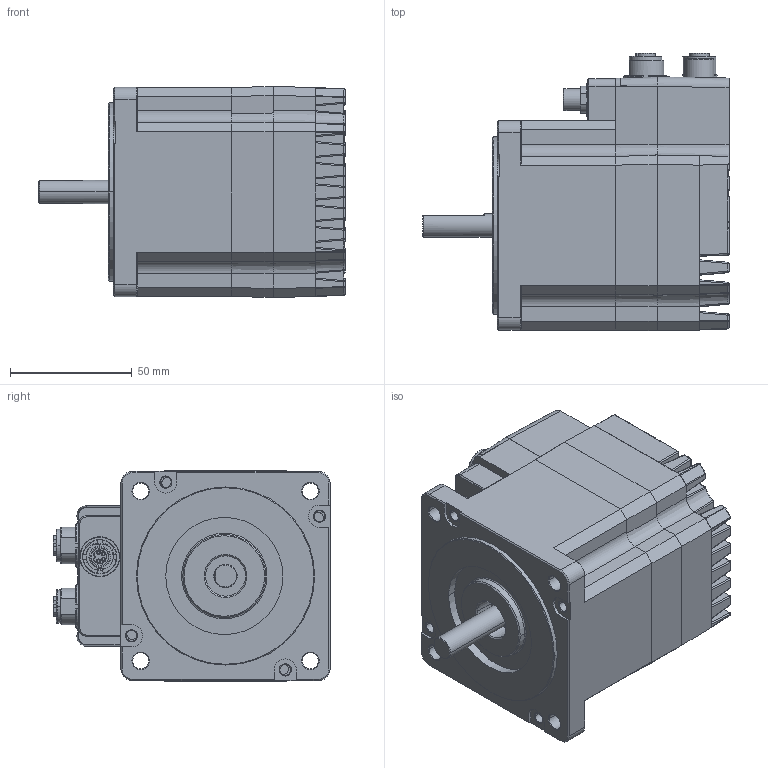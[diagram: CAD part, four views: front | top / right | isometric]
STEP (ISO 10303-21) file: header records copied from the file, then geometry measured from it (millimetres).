
FILE_DESCRIPTION((''),'2;1');
FILE_NAME('STEPPERASSY_ASM','2023-07-11T22:36:08',('KaviarasanNagaraj'),(''),'CREO PARAMETRIC BY PTC INC, 2021063','CREO PARAMETRIC BY PTC INC, 2021063','');
FILE_SCHEMA(('AUTOMOTIVE_DESIGN { 1 0 10303 214 1 1 1 1 }'));
Products named in the file (11): M34_CON_R1; M34_CON_R2; MIS34_F_CONNECTOR; MIS34_STO_PIN; M34_S953; N34PIN1; N34PIN2; N34PIN3; N34PIN4; M34_ASM; STEPPERASSY_ASM
Assembly tree (10 placements, depth 3):
  STEPPERASSY_ASM
    M34_ASM
      M34_CON_R1
      M34_CON_R2
      MIS34_F_CONNECTOR
      MIS34_STO_PIN
      M34_S953
      N34PIN1
      N34PIN2
      N34PIN3
      N34PIN4
Bounding box: 125.5 x 113.9 x 86.41 mm (x, y, z)
Volume: 667518.2 mm3; surface area: 111712.3 mm2
Topology: 9 solids, 10 shells, 1417 faces, 3881 edges, 2407 vertices
Faces by surface type: plane 570, cylinder 554, sphere 111, cone 111, bspline 53, torus 10, extrusion 8
Entity records: 65855 total; most frequent: CARTESIAN_POINT 13399, DIRECTION 7679, ORIENTED_EDGE 7522, PRESENTATION_STYLE_ASSIGNMENT 4056, STYLED_ITEM 3809, CURVE_STYLE 3800, EDGE_CURVE 3761, AXIS2_PLACEMENT_3D 2890
